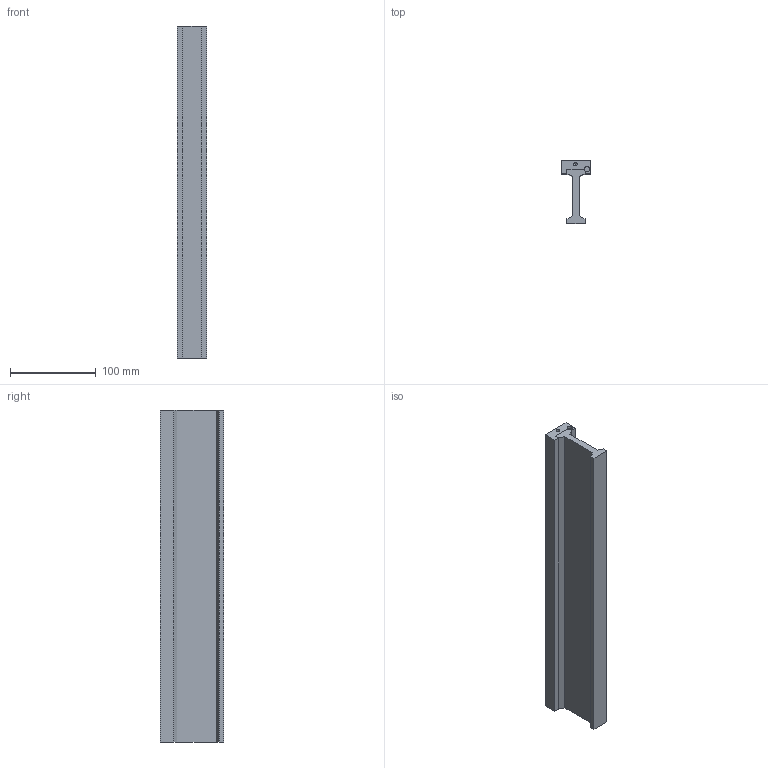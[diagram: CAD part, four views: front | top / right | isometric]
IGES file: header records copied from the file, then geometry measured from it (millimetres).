
Global section: file name: No Iges File Name specified; native system: AutoDesk Inventor R11.0; preprocessor: AutoDesk Inventor Iges Exporter R11.0; author: No Author specified; organization: No Organization specified; date: 20080205.101101; units: inch
Bounding box: 34.29 x 73.66 x 386.08 mm (x, y, z)
Volume: 428963.4 mm3; surface area: 92718.4 mm2
Topology: 1 solids, 1 shells, 49 faces, 125 edges, 71 vertices
Faces by surface type: bspline 28, plane 19, revolution 2
